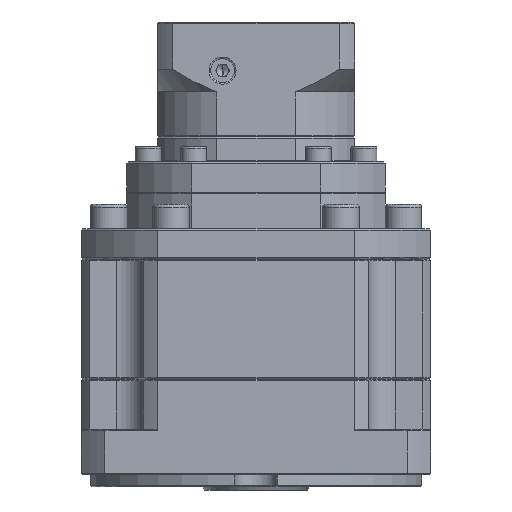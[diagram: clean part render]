
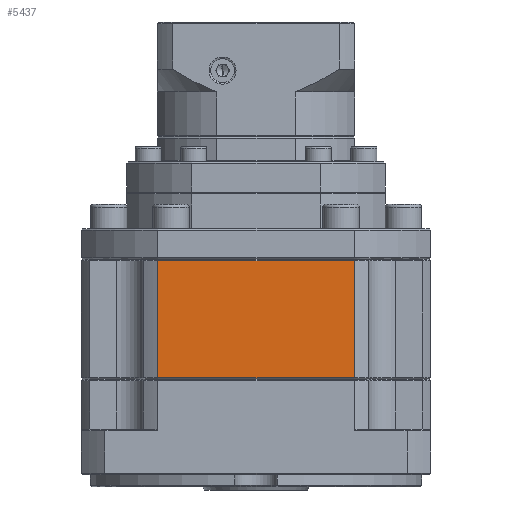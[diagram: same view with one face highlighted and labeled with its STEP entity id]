
A CAD part, left-side view. The second image highlights one B-rep face of the part: STEP entity #5437.
In plain terms, the highlighted planar face has unit normal (-1, 0, 0).
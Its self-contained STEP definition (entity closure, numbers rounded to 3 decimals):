
#3394 = VECTOR ( 'NONE', #25930, 1000. ) ;
#4935 = CARTESIAN_POINT ( 'NONE',  ( -118.741, -25.188, -63.469 ) ) ;
#5437 = ADVANCED_FACE ( 'NONE', ( #81791 ), #22813, .F. ) ;
#9801 = ORIENTED_EDGE ( 'NONE', *, *, #82113, .F. ) ;
#12808 = CARTESIAN_POINT ( 'NONE',  ( -118.741, 32.312, -63.969 ) ) ;
#14041 = DIRECTION ( 'NONE',  ( 0., 1., 0. ) ) ;
#22813 = PLANE ( 'NONE',  #99840 ) ;
#25930 = DIRECTION ( 'NONE',  ( 0., 0., -1. ) ) ;
#26326 = CARTESIAN_POINT ( 'NONE',  ( -118.741, -0.088, -63.969 ) ) ;
#28906 = EDGE_CURVE ( 'NONE', #92626, #77034, #37361, .T. ) ;
#29797 = ORIENTED_EDGE ( 'NONE', *, *, #47103, .F. ) ;
#29901 = VECTOR ( 'NONE', #73971, 1000. ) ;
#30030 = CARTESIAN_POINT ( 'NONE',  ( -118.741, 64.712, -63.969 ) ) ;
#32427 = CARTESIAN_POINT ( 'NONE',  ( -118.741, 64.712, -63.469 ) ) ;
#33212 = LINE ( 'NONE', #32427, #78788 ) ;
#37361 = LINE ( 'NONE', #12808, #107024 ) ;
#37403 = CARTESIAN_POINT ( 'NONE',  ( -118.741, -25.188, -102.469 ) ) ;
#39311 = ORIENTED_EDGE ( 'NONE', *, *, #106564, .F. ) ;
#41280 = LINE ( 'NONE', #37403, #29901 ) ;
#45153 = CARTESIAN_POINT ( 'NONE',  ( -118.741, -0.088, -102.469 ) ) ;
#45917 = CARTESIAN_POINT ( 'NONE',  ( -118.741, 64.712, -102.469 ) ) ;
#47103 = EDGE_CURVE ( 'NONE', #71451, #92478, #41280, .T. ) ;
#51082 = DIRECTION ( 'NONE',  ( 0., 0., 1. ) ) ;
#52895 = EDGE_LOOP ( 'NONE', ( #29797, #9801, #100136, #39311 ) ) ;
#62081 = CARTESIAN_POINT ( 'NONE',  ( -118.741, -0.088, -63.469 ) ) ;
#68487 = DIRECTION ( 'NONE',  ( 1., 0., 0. ) ) ;
#71451 = VERTEX_POINT ( 'NONE', #45153 ) ;
#73971 = DIRECTION ( 'NONE',  ( 0., 1., 0. ) ) ;
#75942 = LINE ( 'NONE', #62081, #3394 ) ;
#76463 = DIRECTION ( 'NONE',  ( 0., -1., 0. ) ) ;
#77034 = VERTEX_POINT ( 'NONE', #26326 ) ;
#78788 = VECTOR ( 'NONE', #51082, 1000. ) ;
#81791 = FACE_OUTER_BOUND ( 'NONE', #52895, .T. ) ;
#82113 = EDGE_CURVE ( 'NONE', #77034, #71451, #75942, .T. ) ;
#92478 = VERTEX_POINT ( 'NONE', #45917 ) ;
#92626 = VERTEX_POINT ( 'NONE', #30030 ) ;
#99840 = AXIS2_PLACEMENT_3D ( 'NONE', #4935, #68487, #14041 ) ;
#100136 = ORIENTED_EDGE ( 'NONE', *, *, #28906, .F. ) ;
#106564 = EDGE_CURVE ( 'NONE', #92478, #92626, #33212, .T. ) ;
#107024 = VECTOR ( 'NONE', #76463, 1000. ) ;
